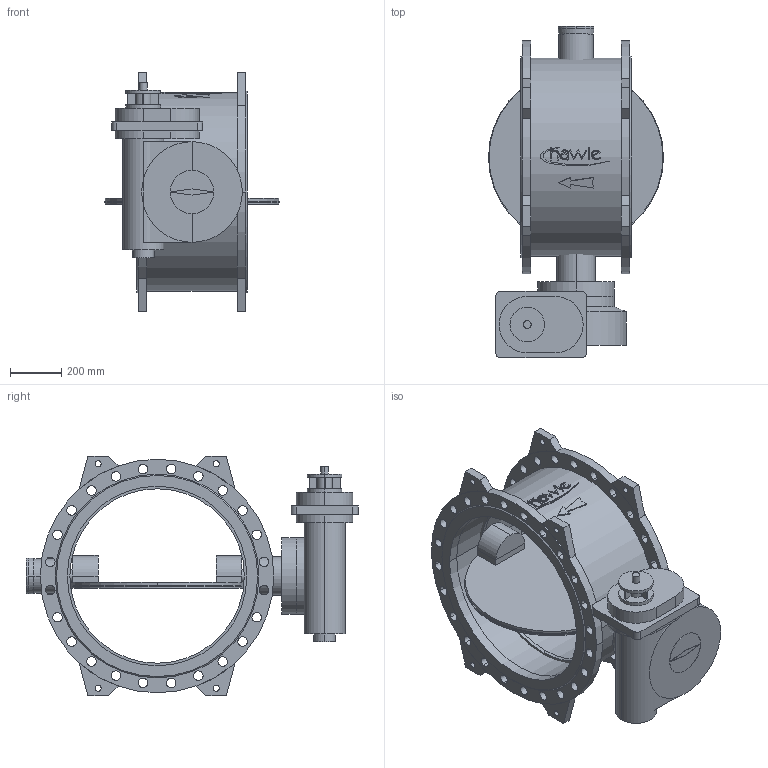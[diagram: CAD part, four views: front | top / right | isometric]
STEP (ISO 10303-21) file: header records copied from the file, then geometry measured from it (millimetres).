
FILE_DESCRIPTION(('STEP AP214'),'1');
FILE_NAME('S:/EK/USER/CAT6/3DHomepage_27-04-2012/neu_08-01-2013/9881K/9881K_PN16_DN700.STP','2013-03-11T15:36:43',(' '),(' '),'Spatial InterOp 3D',' ',' ');
FILE_SCHEMA(('automotive_design'));
Length unit declared in the file: millimetre
Products named in the file (52): 3D-Objekt
Bounding box: 682 x 1294 x 934 mm (x, y, z)
Volume: 115955684.7 mm3; surface area: 7308573.8 mm2
Topology: 52 solids, 52 shells, 449 faces, 1026 edges, 684 vertices
Faces by surface type: cylinder 227, plane 214, cone 8
Entity records: 17868 total; most frequent: DIRECTION 2498, CARTESIAN_POINT 2211, ORIENTED_EDGE 2052, EDGE_CURVE 1026, AXIS2_PLACEMENT_3D 971, VERTEX_POINT 684, EDGE_LOOP 576, LINE 556
